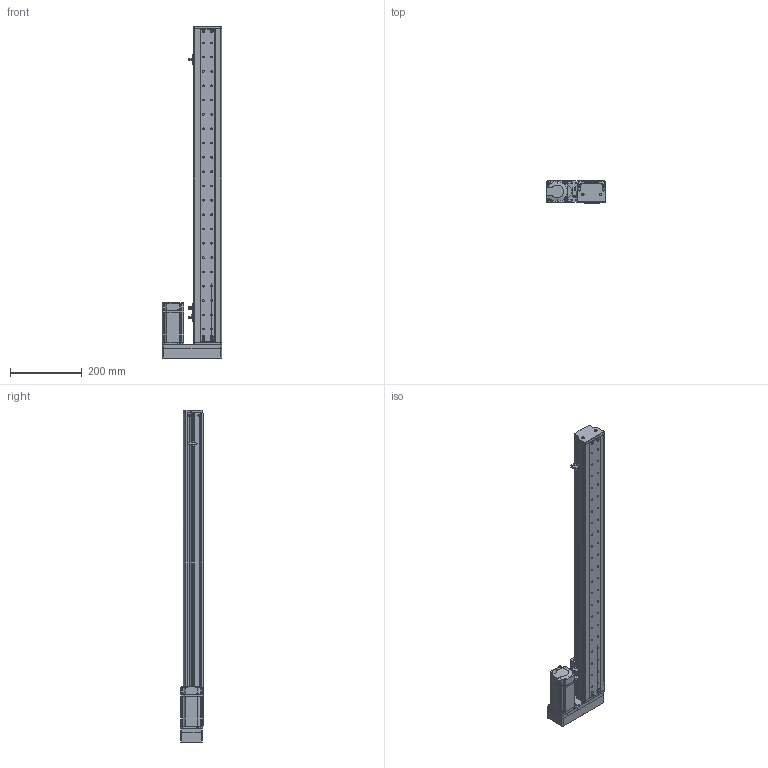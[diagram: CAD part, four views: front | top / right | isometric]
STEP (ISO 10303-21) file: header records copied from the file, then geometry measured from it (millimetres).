
FILE_DESCRIPTION (( 'STEP AP214' ), '1' );
FILE_NAME ('KSD75S-S720-MR-CM.STEP', '2019-10-18T07:24:40', ( '微软用户' ), ( '微软中国' ), 'SwSTEP 2.0', 'SolidWorks 2014', '' );
FILE_SCHEMA (( 'AUTOMOTIVE_DESIGN' ));
Length unit declared in the file: millimetre
Products named in the file (13): MHMD042G1CA_2_03; 75宽模组保护罩左右折; 75宽马达安装板连板左右折丝杆; 覜茼え100遵圉猾敕; U倰嫖萇EEㄜSX672; 綴傷啣 ; ヶ傷啣; 75裔啣-720俴最; 75遵耀郪耜啣-720俴最; 75遵賑雄釱; MGW15H賑寢720; 720俴最; KSD75S-S720-MR-CM
Assembly tree (15 placements, depth 3):
  KSD75S-S720-MR-CM
    MGW15H賑寢720
      720俴最
    75遵賑雄釱
    75遵耀郪耜啣-720俴最  x2
    75裔啣-720俴最
    ヶ傷啣
    綴傷啣 
    U倰嫖萇EEㄜSX672  x3
    覜茼え100遵圉猾敕
    75宽马达安装板连板左右折丝杆
    75宽模组保护罩左右折
    MHMD042G1CA_2_03
Bounding box: 165 x 63 x 927.5 mm (x, y, z)
Volume: 1132740 mm3; surface area: 714483.3 mm2
Topology: 13 solids, 14 shells, 1543 faces, 4330 edges, 2829 vertices
Faces by surface type: cylinder 755, plane 641, cone 129, bspline 18
Entity records: 49382 total; most frequent: CARTESIAN_POINT 9318, DIRECTION 7484, ORIENTED_EDGE 6940, EDGE_CURVE 3541, AXIS2_PLACEMENT_3D 2774, VERTEX_POINT 2347, LINE 1936, VECTOR 1936
